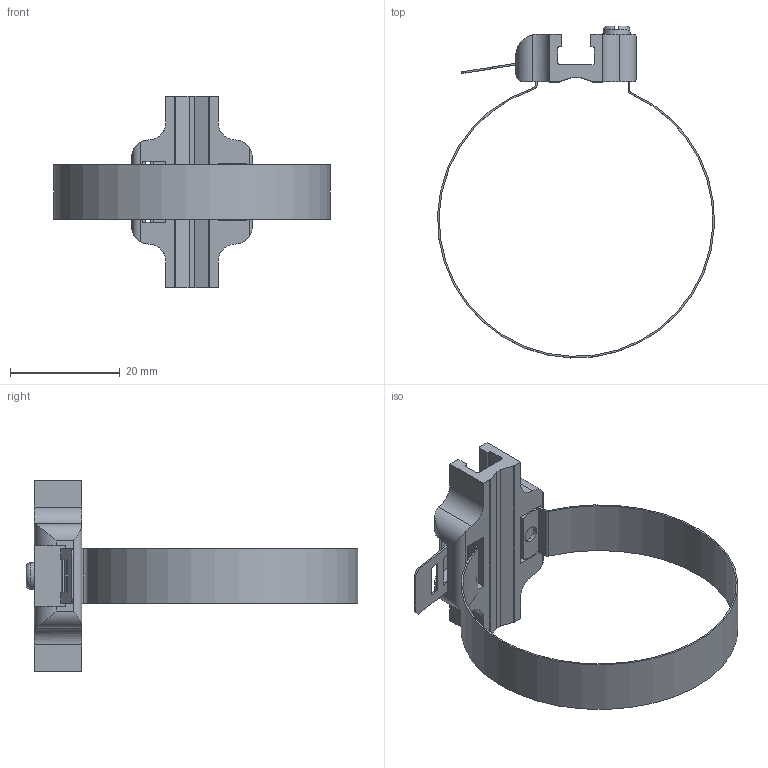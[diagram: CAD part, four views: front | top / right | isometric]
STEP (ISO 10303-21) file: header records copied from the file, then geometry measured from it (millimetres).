
FILE_DESCRIPTION( ( 'STEP AP214' ), ' ' );
FILE_NAME( 'p:/temp/worker_18/3356_840/app_47_02017120213020840245931192d056f_000000_00_00_000000/format_0/SICK BEF-KHZ-RT1-130-1-Bestell-Nr.2077684 (50).stp', '2017-12-02T12:02:08', ( '' ), ( '' ), ' ', 'PARTsolutions', ' ' );
FILE_SCHEMA( ( 'AUTOMOTIVE_DESIGN { 1 0 10303 214 1 1 1 1 }' ) );
Length unit declared in the file: millimetre
Products named in the file (1): _SICK BEF-KHZ-RT1-130-1-Bestell-Nr.2077684 (50)
Bounding box: 50.55 x 60.63 x 35 mm (x, y, z)
Volume: 3344.6 mm3; surface area: 6354.9 mm2
Topology: 1 solids, 1 shells, 128 faces, 363 edges, 240 vertices
Faces by surface type: plane 77, cylinder 49, cone 1, torus 1
Full cylindrical faces by diameter (mm): 3 x2, 3.2 x1
Entity records: 5266 total; most frequent: CARTESIAN_POINT 847, ORIENTED_EDGE 712, DIRECTION 698, EDGE_CURVE 356, LINE 244, VECTOR 244, VERTEX_POINT 238, AXIS2_PLACEMENT_3D 227
